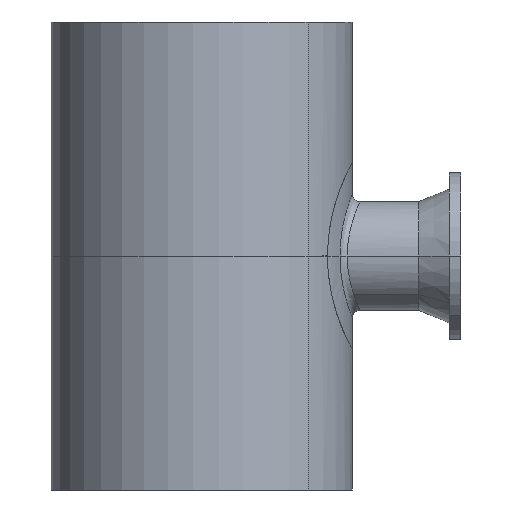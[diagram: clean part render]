
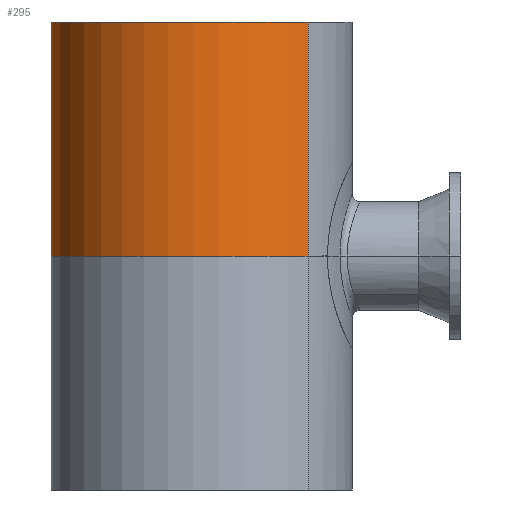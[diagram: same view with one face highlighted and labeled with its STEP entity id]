
A CAD part, left-side view. The second image highlights one B-rep face of the part: STEP entity #295.
In plain terms, the highlighted cylindrical face has radius 228.6 mm (diameter 457.2 mm), a partial arc.
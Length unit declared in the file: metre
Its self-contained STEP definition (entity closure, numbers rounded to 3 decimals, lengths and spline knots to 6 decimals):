
#295=ADVANCED_FACE('0:109',(#508),#509,.T.);
#508=FACE_OUTER_BOUND('',#938,.T.);
#509=CYLINDRICAL_SURFACE('',#939,0.2286);
#938=EDGE_LOOP('',(#8409,#8410,#8411,#8412));
#939=AXIS2_PLACEMENT_3D('',#8413,#8414,#8415);
#8409=ORIENTED_EDGE('',*,*,#9362,.T.);
#8410=ORIENTED_EDGE('',*,*,#9367,.F.);
#8411=ORIENTED_EDGE('',*,*,#9372,.F.);
#8412=ORIENTED_EDGE('',*,*,#9373,.T.);
#8413=CARTESIAN_POINT('',(0.0,0.0,0.7112));
#8414=DIRECTION('',(0.0,0.0,-1.0));
#8415=DIRECTION('',(0.707,0.707,0.0));
#9362=EDGE_CURVE('',#9787,#9788,#9789,.T.);
#9367=EDGE_CURVE('0:92',#9797,#9788,#9798,.T.);
#9372=EDGE_CURVE('0:99',#9804,#9797,#9805,.T.);
#9373=EDGE_CURVE('0:100',#9804,#9787,#9806,.T.);
#9787=VERTEX_POINT('',#10725);
#9788=VERTEX_POINT('',#10726);
#9789=LINE('',#10727,#10728);
#9797=VERTEX_POINT('',#10766);
#9798=CIRCLE('',#10767,0.2286);
#9804=VERTEX_POINT('',#10776);
#9805=LINE('',#10777,#10778);
#9806=CIRCLE('',#10779,0.2286);
#10725=CARTESIAN_POINT('',(-0.161645,-0.161645,0.3556));
#10726=CARTESIAN_POINT('',(-0.161645,-0.161645,0.7112));
#10727=CARTESIAN_POINT('',(-0.161645,-0.161645,0.7112));
#10728=VECTOR('',#13936,1.0);
#10766=CARTESIAN_POINT('',(0.0,0.2286,0.7112));
#10767=AXIS2_PLACEMENT_3D('',#13944,#13945,#13946);
#10776=CARTESIAN_POINT('',(0.0,0.2286,0.3556));
#10777=CARTESIAN_POINT('',(0.0,0.2286,0.3556));
#10778=VECTOR('',#13953,1.0);
#10779=AXIS2_PLACEMENT_3D('',#13954,#13955,#13956);
#13936=DIRECTION('',(-0.0,-0.0,1.0));
#13944=CARTESIAN_POINT('',(0.0,0.0,0.7112));
#13945=DIRECTION('',(0.0,-0.0,1.0));
#13946=DIRECTION('',(0.,1.0,0.0));
#13953=DIRECTION('',(0.0,0.0,1.0));
#13954=CARTESIAN_POINT('',(0.0,0.0,0.3556));
#13955=DIRECTION('',(0.0,-0.0,1.0));
#13956=DIRECTION('',(0.,1.0,0.0));
